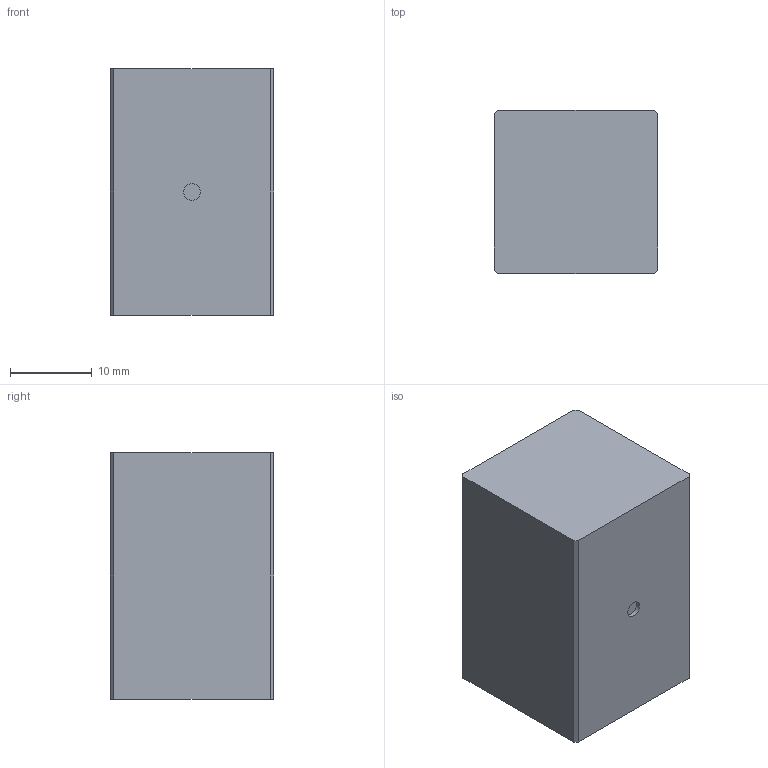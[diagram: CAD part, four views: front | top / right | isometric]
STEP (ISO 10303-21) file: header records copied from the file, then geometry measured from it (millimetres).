
FILE_DESCRIPTION(('Open CASCADE Model'),'2;1');
FILE_NAME('Open CASCADE Shape Model','2026-08-23T08:04:36',('Author'),( 'Open CASCADE'),'Open CASCADE STEP processor 7.9','Open CASCADE 7.9' ,'Unknown');
FILE_SCHEMA(('AUTOMOTIVE_DESIGN { 1 0 10303 214 1 1 1 1 }'));
Length unit declared in the file: millimetre
Products named in the file (2): =>[0:1:1:2]; COMPOUND
Assembly tree (1 placements, depth 2):
  =>[0:1:1:2]
    COMPOUND
Bounding box: 20 x 20 x 30.25 mm (x, y, z)
Volume: 12088.7 mm3; surface area: 3194.1 mm2
Topology: 1 solids, 1 shells, 12 faces, 27 edges, 18 vertices
Faces by surface type: plane 11, cylinder 1
Full cylindrical faces by diameter (mm): 2 x1
Entity records: 731 total; most frequent: CARTESIAN_POINT 119, DIRECTION 110, LINE 77, VECTOR 77, ORIENTED_EDGE 54, PCURVE 54, DEFINITIONAL_REPRESENTATION 54, EDGE_CURVE 27
